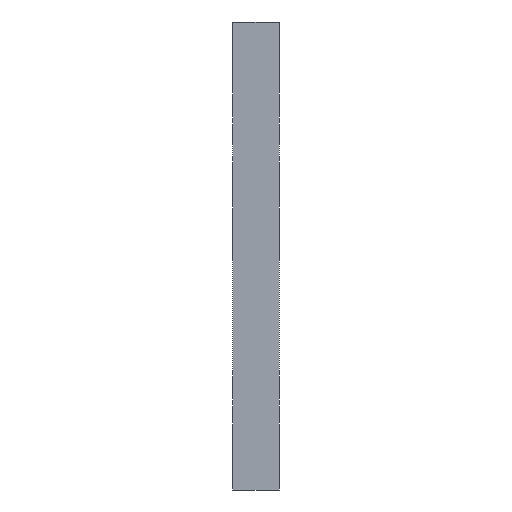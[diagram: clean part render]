
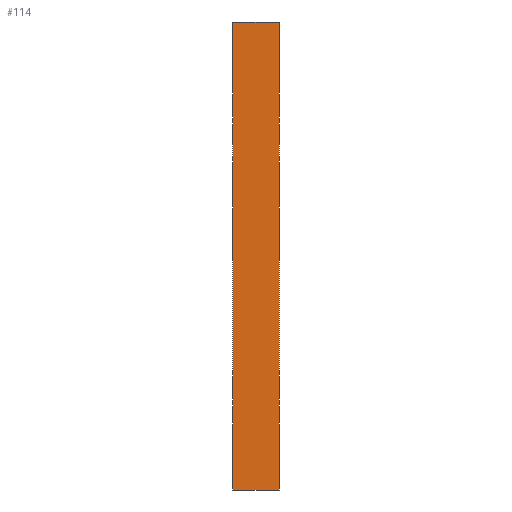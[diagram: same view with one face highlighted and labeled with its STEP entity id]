
A CAD part, left-side view. The second image highlights one B-rep face of the part: STEP entity #114.
In plain terms, the highlighted planar face has unit normal (-1, 0, 0).
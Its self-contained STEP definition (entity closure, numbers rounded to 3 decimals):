
#5 = EDGE_LOOP ( 'NONE', ( #410, #469, #505, #384 ) ) ;
#38 = CARTESIAN_POINT ( 'NONE',  ( 0., 5., 0. ) ) ;
#39 = DIRECTION ( 'NONE',  ( 0., -1., 0. ) ) ;
#90 = CARTESIAN_POINT ( 'NONE',  ( 0., 5., -50. ) ) ;
#95 = CARTESIAN_POINT ( 'NONE',  ( 0., 0., -50. ) ) ;
#96 = CARTESIAN_POINT ( 'NONE',  ( 0., 5., 0. ) ) ;
#103 = VECTOR ( 'NONE', #661, 1000. ) ;
#114 = ADVANCED_FACE ( 'NONE', ( #124 ), #345, .F. ) ;
#124 = FACE_OUTER_BOUND ( 'NONE', #5, .T. ) ;
#157 = DIRECTION ( 'NONE',  ( 0., 0., -1. ) ) ;
#243 = VERTEX_POINT ( 'NONE', #622 ) ;
#250 = VECTOR ( 'NONE', #657, 1000. ) ;
#279 = DIRECTION ( 'NONE',  ( 1., 0., 0. ) ) ;
#313 = VECTOR ( 'NONE', #332, 1000. ) ;
#330 = AXIS2_PLACEMENT_3D ( 'NONE', #96, #279, #157 ) ;
#332 = DIRECTION ( 'NONE',  ( 0., 0., 1. ) ) ;
#345 = PLANE ( 'NONE',  #330 ) ;
#350 = VERTEX_POINT ( 'NONE', #467 ) ;
#384 = ORIENTED_EDGE ( 'NONE', *, *, #581, .T. ) ;
#410 = ORIENTED_EDGE ( 'NONE', *, *, #630, .T. ) ;
#434 = LINE ( 'NONE', #38, #250 ) ;
#441 = LINE ( 'NONE', #504, #103 ) ;
#467 = CARTESIAN_POINT ( 'NONE',  ( 0., 5., -50. ) ) ;
#469 = ORIENTED_EDGE ( 'NONE', *, *, #594, .F. ) ;
#485 = VECTOR ( 'NONE', #39, 1000. ) ;
#497 = CARTESIAN_POINT ( 'NONE',  ( 0., 0., 0. ) ) ;
#504 = CARTESIAN_POINT ( 'NONE',  ( 0., 5., 0. ) ) ;
#505 = ORIENTED_EDGE ( 'NONE', *, *, #719, .F. ) ;
#563 = VERTEX_POINT ( 'NONE', #95 ) ;
#581 = EDGE_CURVE ( 'NONE', #350, #563, #665, .T. ) ;
#591 = LINE ( 'NONE', #652, #313 ) ;
#594 = EDGE_CURVE ( 'NONE', #243, #676, #434, .T. ) ;
#622 = CARTESIAN_POINT ( 'NONE',  ( 0., 5., 0. ) ) ;
#630 = EDGE_CURVE ( 'NONE', #563, #676, #591, .T. ) ;
#652 = CARTESIAN_POINT ( 'NONE',  ( 0., 0., 0. ) ) ;
#657 = DIRECTION ( 'NONE',  ( 0., -1., 0. ) ) ;
#661 = DIRECTION ( 'NONE',  ( 0., 0., 1. ) ) ;
#665 = LINE ( 'NONE', #90, #485 ) ;
#676 = VERTEX_POINT ( 'NONE', #497 ) ;
#719 = EDGE_CURVE ( 'NONE', #350, #243, #441, .T. ) ;
